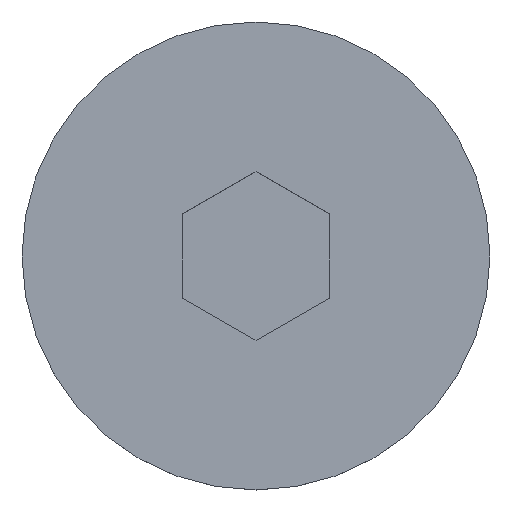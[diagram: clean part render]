
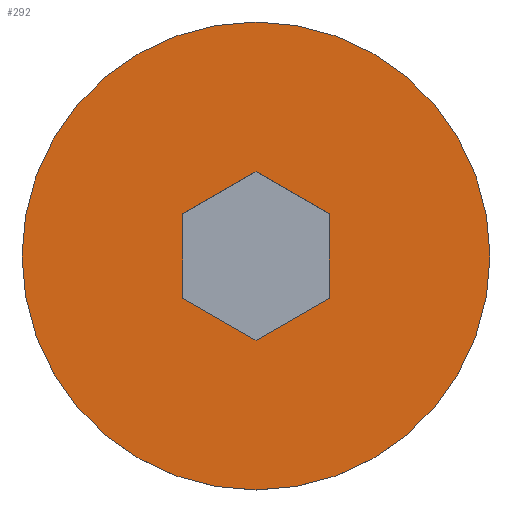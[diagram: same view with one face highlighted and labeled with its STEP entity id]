
A CAD part, top view. The second image highlights one B-rep face of the part: STEP entity #292.
In plain terms, the highlighted planar face has unit normal (0, 0, 1).
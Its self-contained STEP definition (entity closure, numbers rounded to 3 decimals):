
#11 = VECTOR ( 'NONE', #38, 1000. ) ;
#14 = EDGE_CURVE ( 'NONE', #259, #95, #181, .T. ) ;
#21 = CARTESIAN_POINT ( 'NONE',  ( -3., 1.732, 5.22 ) ) ;
#22 = VERTEX_POINT ( 'NONE', #54 ) ;
#30 = LINE ( 'NONE', #60, #205 ) ;
#32 = CARTESIAN_POINT ( 'NONE',  ( -9.61, 0., 5.22 ) ) ;
#38 = DIRECTION ( 'NONE',  ( 0.866, -0.5, 0. ) ) ;
#42 = ORIENTED_EDGE ( 'NONE', *, *, #356, .F. ) ;
#54 = CARTESIAN_POINT ( 'NONE',  ( 0., -3.464, 5.22 ) ) ;
#57 = EDGE_CURVE ( 'NONE', #66, #117, #310, .T. ) ;
#60 = CARTESIAN_POINT ( 'NONE',  ( -3., 1.732, 5.22 ) ) ;
#63 = DIRECTION ( 'NONE',  ( 0., 0., 1. ) ) ;
#64 = EDGE_CURVE ( 'NONE', #161, #247, #217, .T. ) ;
#66 = VERTEX_POINT ( 'NONE', #374 ) ;
#78 = DIRECTION ( 'NONE',  ( 0., 0., -1. ) ) ;
#80 = AXIS2_PLACEMENT_3D ( 'NONE', #32, #63, #305 ) ;
#90 = CARTESIAN_POINT ( 'NONE',  ( 3., -1.732, 5.22 ) ) ;
#95 = VERTEX_POINT ( 'NONE', #196 ) ;
#99 = LINE ( 'NONE', #349, #256 ) ;
#113 = VECTOR ( 'NONE', #177, 1000. ) ;
#117 = VERTEX_POINT ( 'NONE', #21 ) ;
#119 = AXIS2_PLACEMENT_3D ( 'NONE', #211, #78, #246 ) ;
#126 = DIRECTION ( 'NONE',  ( 0., 1., 0. ) ) ;
#136 = DIRECTION ( 'NONE',  ( -0.866, 0.5, 0. ) ) ;
#140 = LINE ( 'NONE', #208, #11 ) ;
#154 = EDGE_CURVE ( 'NONE', #117, #408, #30, .T. ) ;
#161 = VERTEX_POINT ( 'NONE', #90 ) ;
#162 = VECTOR ( 'NONE', #431, 1000. ) ;
#177 = DIRECTION ( 'NONE',  ( 0.866, 0.5, 0. ) ) ;
#181 = CIRCLE ( 'NONE', #326, 9.61 ) ;
#183 = FACE_OUTER_BOUND ( 'NONE', #436, .T. ) ;
#186 = ORIENTED_EDGE ( 'NONE', *, *, #401, .F. ) ;
#189 = DIRECTION ( 'NONE',  ( 0., 0., -1. ) ) ;
#196 = CARTESIAN_POINT ( 'NONE',  ( -9.61, 0., 5.22 ) ) ;
#197 = ORIENTED_EDGE ( 'NONE', *, *, #154, .F. ) ;
#205 = VECTOR ( 'NONE', #228, 1000. ) ;
#208 = CARTESIAN_POINT ( 'NONE',  ( -3., -1.732, 5.22 ) ) ;
#211 = CARTESIAN_POINT ( 'NONE',  ( 0., 0., 5.22 ) ) ;
#217 = LINE ( 'NONE', #332, #347 ) ;
#222 = LINE ( 'NONE', #317, #113 ) ;
#228 = DIRECTION ( 'NONE',  ( 0., -1., 0. ) ) ;
#240 = PLANE ( 'NONE',  #80 ) ;
#246 = DIRECTION ( 'NONE',  ( -1., 0., 0. ) ) ;
#247 = VERTEX_POINT ( 'NONE', #345 ) ;
#256 = VECTOR ( 'NONE', #136, 1000. ) ;
#259 = VERTEX_POINT ( 'NONE', #377 ) ;
#292 = ADVANCED_FACE ( 'NONE', ( #429, #183 ), #240, .T. ) ;
#297 = EDGE_LOOP ( 'NONE', ( #42, #318, #186, #433, #197, #398 ) ) ;
#305 = DIRECTION ( 'NONE',  ( 1., 0., 0. ) ) ;
#310 = LINE ( 'NONE', #371, #162 ) ;
#317 = CARTESIAN_POINT ( 'NONE',  ( 0., -3.464, 5.22 ) ) ;
#318 = ORIENTED_EDGE ( 'NONE', *, *, #64, .F. ) ;
#326 = AXIS2_PLACEMENT_3D ( 'NONE', #365, #189, #327 ) ;
#327 = DIRECTION ( 'NONE',  ( -1., 0., 0. ) ) ;
#332 = CARTESIAN_POINT ( 'NONE',  ( 3., -1.732, 5.22 ) ) ;
#345 = CARTESIAN_POINT ( 'NONE',  ( 3., 1.732, 5.22 ) ) ;
#347 = VECTOR ( 'NONE', #126, 1000. ) ;
#349 = CARTESIAN_POINT ( 'NONE',  ( 3., 1.732, 5.22 ) ) ;
#352 = CARTESIAN_POINT ( 'NONE',  ( -3., -1.732, 5.22 ) ) ;
#356 = EDGE_CURVE ( 'NONE', #247, #66, #99, .T. ) ;
#362 = CIRCLE ( 'NONE', #119, 9.61 ) ;
#364 = ORIENTED_EDGE ( 'NONE', *, *, #392, .F. ) ;
#365 = CARTESIAN_POINT ( 'NONE',  ( 0., 0., 5.22 ) ) ;
#371 = CARTESIAN_POINT ( 'NONE',  ( 0., 3.464, 5.22 ) ) ;
#374 = CARTESIAN_POINT ( 'NONE',  ( 0., 3.464, 5.22 ) ) ;
#377 = CARTESIAN_POINT ( 'NONE',  ( 9.61, 0., 5.22 ) ) ;
#387 = EDGE_CURVE ( 'NONE', #408, #22, #140, .T. ) ;
#392 = EDGE_CURVE ( 'NONE', #95, #259, #362, .T. ) ;
#398 = ORIENTED_EDGE ( 'NONE', *, *, #57, .F. ) ;
#401 = EDGE_CURVE ( 'NONE', #22, #161, #222, .T. ) ;
#408 = VERTEX_POINT ( 'NONE', #352 ) ;
#425 = ORIENTED_EDGE ( 'NONE', *, *, #14, .F. ) ;
#429 = FACE_BOUND ( 'NONE', #297, .T. ) ;
#431 = DIRECTION ( 'NONE',  ( -0.866, -0.5, 0. ) ) ;
#433 = ORIENTED_EDGE ( 'NONE', *, *, #387, .F. ) ;
#436 = EDGE_LOOP ( 'NONE', ( #364, #425 ) ) ;
